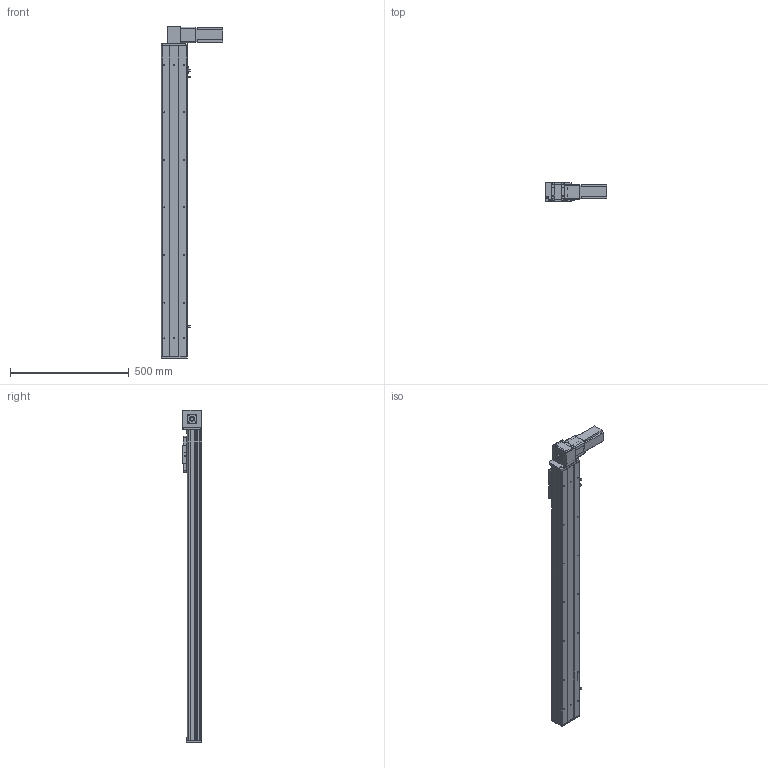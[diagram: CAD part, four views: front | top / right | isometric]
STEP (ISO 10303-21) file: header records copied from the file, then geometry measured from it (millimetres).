
FILE_DESCRIPTION (( 'STEP AP203' ), '1' );
FILE_NAME ('Y10CB-D90-S1050-BD-P400W.STEP', '2020-02-17T02:34:54', ( '微软用户' ), ( '微软中国' ), 'SwSTEP 2.0', 'SolidWorks 2017', '' );
FILE_SCHEMA (( 'CONFIG_CONTROL_DESIGN' ));
Length unit declared in the file: millimetre
Products named in the file (16): 10CB9-掛极; 0Cb-俋欶---; 10CB-耜裔; Y10B-々湍喘謫眊楊擘啣--; Y135C-陔俋离換覜結え-; san松下电机400不带刹车----; Y100-135俋离換覜ん--; 0B-源倛裔啣; Y10B--々湍喘謫眊--666; 0B-埴倛裔啣; 0B-薊粣ん眊; 10CB-詩湍-; Y10CB-D90-S1050-BD-P400W; Y10CB- 掛极耜裔啣-毀---; Y10C---詩湍揤啣; 0CB-雄赽釱---
Assembly tree (19 placements, depth 2):
  Y10CB-D90-S1050-BD-P400W
    0CB-雄赽釱---
    0Cb-俋欶---
    Y10B-々湍喘謫眊楊擘啣--
    san松下电机400不带刹车----
    0B-源倛裔啣
    0B-埴倛裔啣
    10CB-詩湍-
    Y10CB- 掛极耜裔啣-毀---  x2
    Y10C---詩湍揤啣  x2
    10CB9-掛极
    10CB-耜裔
    Y135C-陔俋离換覜結え-
    Y100-135俋离換覜ん--  x3
    Y10B--々湍喘謫眊--666
    0B-薊粣ん眊
Bounding box: 258 x 80.5 x 1396 mm (x, y, z)
Volume: 3223557.6 mm3; surface area: 1411803.3 mm2
Topology: 19 solids, 19 shells, 900 faces, 2382 edges, 1556 vertices
Faces by surface type: cylinder 440, plane 436, cone 24
Entity records: 27569 total; most frequent: CARTESIAN_POINT 4904, DIRECTION 4457, ORIENTED_EDGE 4234, EDGE_CURVE 2117, AXIS2_PLACEMENT_3D 1599, VERTEX_POINT 1382, VECTOR 1259, LINE 1259
